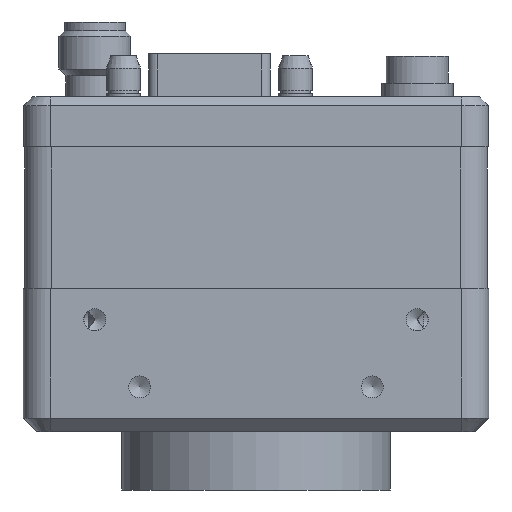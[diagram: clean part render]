
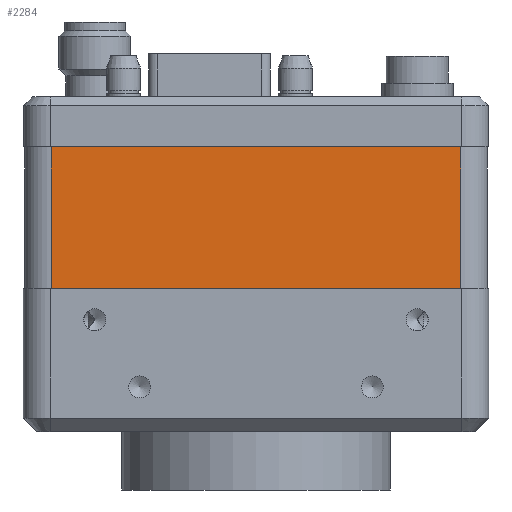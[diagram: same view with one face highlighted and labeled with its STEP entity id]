
A CAD part, front view. The second image highlights one B-rep face of the part: STEP entity #2284.
In plain terms, the highlighted planar face has unit normal (0, -1, 0).
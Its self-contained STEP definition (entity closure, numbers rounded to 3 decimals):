
#2284 = ADVANCED_FACE( '', ( #6043 ), #6044, .T. );
#6043 = FACE_OUTER_BOUND( '', #12148, .T. );
#6044 = PLANE( '', #12149 );
#12148 = EDGE_LOOP( '', ( #22867, #22868, #22869, #22870 ) );
#12149 = AXIS2_PLACEMENT_3D( '', #22871, #22872, #22873 );
#22867 = ORIENTED_EDGE( '', *, *, #36176, .F. );
#22868 = ORIENTED_EDGE( '', *, *, #36177, .F. );
#22869 = ORIENTED_EDGE( '', *, *, #36178, .T. );
#22870 = ORIENTED_EDGE( '', *, *, #36179, .T. );
#22871 = CARTESIAN_POINT( '', ( -22.85, -25.85, -1. ) );
#22872 = DIRECTION( '', ( 0., -1., 0. ) );
#22873 = DIRECTION( '', ( 0., 0., -1. ) );
#36176 = EDGE_CURVE( '', #42192, #42193, #42194, .T. );
#36177 = EDGE_CURVE( '', #42195, #42192, #42196, .T. );
#36178 = EDGE_CURVE( '', #42195, #42197, #42198, .T. );
#36179 = EDGE_CURVE( '', #42197, #42193, #42199, .T. );
#42192 = VERTEX_POINT( '', #51510 );
#42193 = VERTEX_POINT( '', #51511 );
#42194 = LINE( '', #51512, #51513 );
#42195 = VERTEX_POINT( '', #51514 );
#42196 = LINE( '', #51515, #51516 );
#42197 = VERTEX_POINT( '', #51517 );
#42198 = LINE( '', #51518, #51519 );
#42199 = LINE( '', #51520, #51521 );
#51510 = CARTESIAN_POINT( '', ( -22.85, -25.85, 14.8 ) );
#51511 = CARTESIAN_POINT( '', ( 22.85, -25.85, 14.8 ) );
#51512 = CARTESIAN_POINT( '', ( -22.85, -25.85, 14.8 ) );
#51513 = VECTOR( '', #64271, 1000. );
#51514 = CARTESIAN_POINT( '', ( -22.85, -25.85, -1. ) );
#51515 = CARTESIAN_POINT( '', ( -22.85, -25.85, -1. ) );
#51516 = VECTOR( '', #64272, 1000. );
#51517 = CARTESIAN_POINT( '', ( 22.85, -25.85, -1. ) );
#51518 = CARTESIAN_POINT( '', ( -22.85, -25.85, -1. ) );
#51519 = VECTOR( '', #64273, 1000. );
#51520 = CARTESIAN_POINT( '', ( 22.85, -25.85, -1. ) );
#51521 = VECTOR( '', #64274, 1000. );
#64271 = DIRECTION( '', ( 1., 0., 0. ) );
#64272 = DIRECTION( '', ( 0., 0., 1. ) );
#64273 = DIRECTION( '', ( 1., 0., 0. ) );
#64274 = DIRECTION( '', ( 0., 0., 1. ) );
